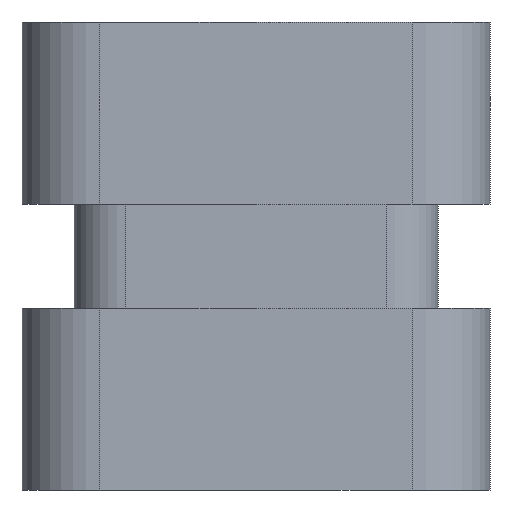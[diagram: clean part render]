
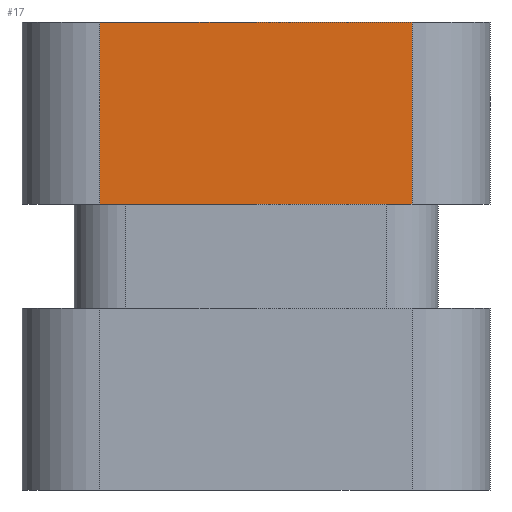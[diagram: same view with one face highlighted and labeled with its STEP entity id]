
A CAD part, left-side view. The second image highlights one B-rep face of the part: STEP entity #17.
In plain terms, the highlighted planar face has unit normal (-1, 0, 0).
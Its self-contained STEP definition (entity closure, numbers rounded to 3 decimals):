
#17 = ADVANCED_FACE('',(#18),#32,.F.);
#18 = FACE_BOUND('',#19,.F.);
#19 = EDGE_LOOP('',(#20,#55,#83,#109));
#20 = ORIENTED_EDGE('',*,*,#21,.F.);
#21 = EDGE_CURVE('',#22,#24,#26,.T.);
#22 = VERTEX_POINT('',#23);
#23 = CARTESIAN_POINT('',(-6.,-3.,9.));
#24 = VERTEX_POINT('',#25);
#25 = CARTESIAN_POINT('',(-6.,3.,9.));
#26 = SURFACE_CURVE('',#27,(#31,#43),.PCURVE_S1.);
#27 = LINE('',#28,#29);
#28 = CARTESIAN_POINT('',(-6.,-4.5,9.));
#29 = VECTOR('',#30,1.);
#30 = DIRECTION('',(0.,1.,0.));
#31 = PCURVE('',#32,#37);
#32 = PLANE('',#33);
#33 = AXIS2_PLACEMENT_3D('',#34,#35,#36);
#34 = CARTESIAN_POINT('',(-6.,-4.5,0.));
#35 = DIRECTION('',(1.,0.,0.));
#36 = DIRECTION('',(0.,0.,1.));
#37 = DEFINITIONAL_REPRESENTATION('',(#38),#42);
#38 = LINE('',#39,#40);
#39 = CARTESIAN_POINT('',(9.,0.));
#40 = VECTOR('',#41,1.);
#41 = DIRECTION('',(0.,-1.));
#42 = ( GEOMETRIC_REPRESENTATION_CONTEXT(2) 
PARAMETRIC_REPRESENTATION_CONTEXT() REPRESENTATION_CONTEXT('2D SPACE',''
  ) );
#43 = PCURVE('',#44,#49);
#44 = PLANE('',#45);
#45 = AXIS2_PLACEMENT_3D('',#46,#47,#48);
#46 = CARTESIAN_POINT('',(-6.,-4.5,9.));
#47 = DIRECTION('',(0.,0.,1.));
#48 = DIRECTION('',(1.,0.,0.));
#49 = DEFINITIONAL_REPRESENTATION('',(#50),#54);
#50 = LINE('',#51,#52);
#51 = CARTESIAN_POINT('',(0.,0.));
#52 = VECTOR('',#53,1.);
#53 = DIRECTION('',(0.,1.));
#54 = ( GEOMETRIC_REPRESENTATION_CONTEXT(2) 
PARAMETRIC_REPRESENTATION_CONTEXT() REPRESENTATION_CONTEXT('2D SPACE',''
  ) );
#55 = ORIENTED_EDGE('',*,*,#56,.F.);
#56 = EDGE_CURVE('',#57,#22,#59,.T.);
#57 = VERTEX_POINT('',#58);
#58 = CARTESIAN_POINT('',(-6.,-3.,5.5));
#59 = SURFACE_CURVE('',#60,(#64,#71),.PCURVE_S1.);
#60 = LINE('',#61,#62);
#61 = CARTESIAN_POINT('',(-6.,-3.,0.));
#62 = VECTOR('',#63,1.);
#63 = DIRECTION('',(0.,0.,1.));
#64 = PCURVE('',#32,#65);
#65 = DEFINITIONAL_REPRESENTATION('',(#66),#70);
#66 = LINE('',#67,#68);
#67 = CARTESIAN_POINT('',(0.,-1.5));
#68 = VECTOR('',#69,1.);
#69 = DIRECTION('',(1.,0.));
#70 = ( GEOMETRIC_REPRESENTATION_CONTEXT(2) 
PARAMETRIC_REPRESENTATION_CONTEXT() REPRESENTATION_CONTEXT('2D SPACE',''
  ) );
#71 = PCURVE('',#72,#77);
#72 = CYLINDRICAL_SURFACE('',#73,1.5);
#73 = AXIS2_PLACEMENT_3D('',#74,#75,#76);
#74 = CARTESIAN_POINT('',(-4.5,-3.,0.));
#75 = DIRECTION('',(0.,0.,1.));
#76 = DIRECTION('',(-1.,-0.,0.));
#77 = DEFINITIONAL_REPRESENTATION('',(#78),#82);
#78 = LINE('',#79,#80);
#79 = CARTESIAN_POINT('',(0.,0.));
#80 = VECTOR('',#81,1.);
#81 = DIRECTION('',(0.,1.));
#82 = ( GEOMETRIC_REPRESENTATION_CONTEXT(2) 
PARAMETRIC_REPRESENTATION_CONTEXT() REPRESENTATION_CONTEXT('2D SPACE',''
  ) );
#83 = ORIENTED_EDGE('',*,*,#84,.F.);
#84 = EDGE_CURVE('',#85,#57,#87,.T.);
#85 = VERTEX_POINT('',#86);
#86 = CARTESIAN_POINT('',(-6.,3.,5.5));
#87 = SURFACE_CURVE('',#88,(#92,#98),.PCURVE_S1.);
#88 = LINE('',#89,#90);
#89 = CARTESIAN_POINT('',(-6.,-4.75,5.5));
#90 = VECTOR('',#91,1.);
#91 = DIRECTION('',(0.,-1.,0.));
#92 = PCURVE('',#32,#93);
#93 = DEFINITIONAL_REPRESENTATION('',(#94),#97);
#94 = B_SPLINE_CURVE_WITH_KNOTS('',1,(#95,#96),.UNSPECIFIED.,.F.,.F.,(2,
    2),(-7.75,-1.75),.PIECEWISE_BEZIER_KNOTS.);
#95 = CARTESIAN_POINT('',(5.5,-7.5));
#96 = CARTESIAN_POINT('',(5.5,-1.5));
#97 = ( GEOMETRIC_REPRESENTATION_CONTEXT(2) 
PARAMETRIC_REPRESENTATION_CONTEXT() REPRESENTATION_CONTEXT('2D SPACE',''
  ) );
#98 = PCURVE('',#99,#104);
#99 = PLANE('',#100);
#100 = AXIS2_PLACEMENT_3D('',#101,#102,#103);
#101 = CARTESIAN_POINT('',(-7.,-5.,5.5));
#102 = DIRECTION('',(0.,0.,1.));
#103 = DIRECTION('',(1.,0.,0.));
#104 = DEFINITIONAL_REPRESENTATION('',(#105),#108);
#105 = B_SPLINE_CURVE_WITH_KNOTS('',1,(#106,#107),.UNSPECIFIED.,.F.,.F.,
  (2,2),(-7.75,-1.75),.PIECEWISE_BEZIER_KNOTS.);
#106 = CARTESIAN_POINT('',(1.,8.));
#107 = CARTESIAN_POINT('',(1.,2.));
#108 = ( GEOMETRIC_REPRESENTATION_CONTEXT(2) 
PARAMETRIC_REPRESENTATION_CONTEXT() REPRESENTATION_CONTEXT('2D SPACE',''
  ) );
#109 = ORIENTED_EDGE('',*,*,#110,.T.);
#110 = EDGE_CURVE('',#85,#24,#111,.T.);
#111 = SURFACE_CURVE('',#112,(#116,#123),.PCURVE_S1.);
#112 = LINE('',#113,#114);
#113 = CARTESIAN_POINT('',(-6.,3.,0.));
#114 = VECTOR('',#115,1.);
#115 = DIRECTION('',(0.,0.,1.));
#116 = PCURVE('',#32,#117);
#117 = DEFINITIONAL_REPRESENTATION('',(#118),#122);
#118 = LINE('',#119,#120);
#119 = CARTESIAN_POINT('',(0.,-7.5));
#120 = VECTOR('',#121,1.);
#121 = DIRECTION('',(1.,0.));
#122 = ( GEOMETRIC_REPRESENTATION_CONTEXT(2) 
PARAMETRIC_REPRESENTATION_CONTEXT() REPRESENTATION_CONTEXT('2D SPACE',''
  ) );
#123 = PCURVE('',#124,#129);
#124 = CYLINDRICAL_SURFACE('',#125,1.5);
#125 = AXIS2_PLACEMENT_3D('',#126,#127,#128);
#126 = CARTESIAN_POINT('',(-4.5,3.,0.));
#127 = DIRECTION('',(0.,0.,1.));
#128 = DIRECTION('',(-1.,-0.,0.));
#129 = DEFINITIONAL_REPRESENTATION('',(#130),#134);
#130 = LINE('',#131,#132);
#131 = CARTESIAN_POINT('',(-0.,0.));
#132 = VECTOR('',#133,1.);
#133 = DIRECTION('',(-0.,1.));
#134 = ( GEOMETRIC_REPRESENTATION_CONTEXT(2) 
PARAMETRIC_REPRESENTATION_CONTEXT() REPRESENTATION_CONTEXT('2D SPACE',''
  ) );
